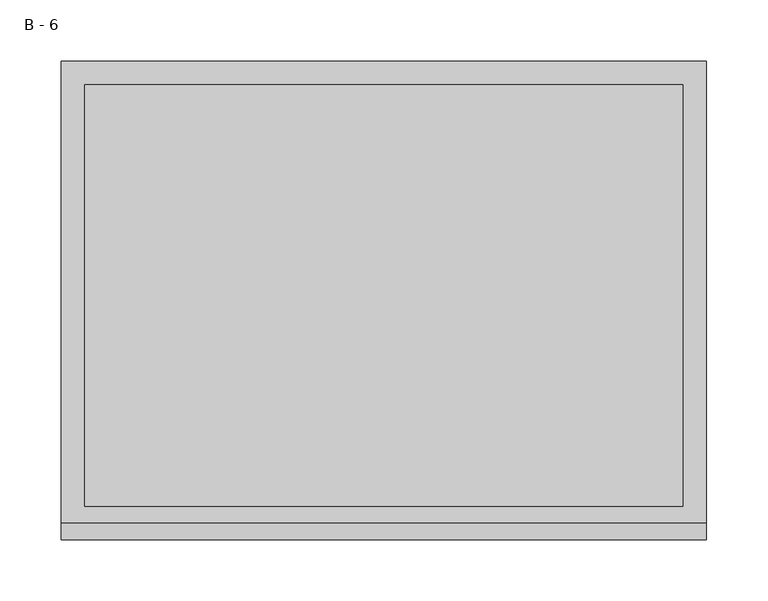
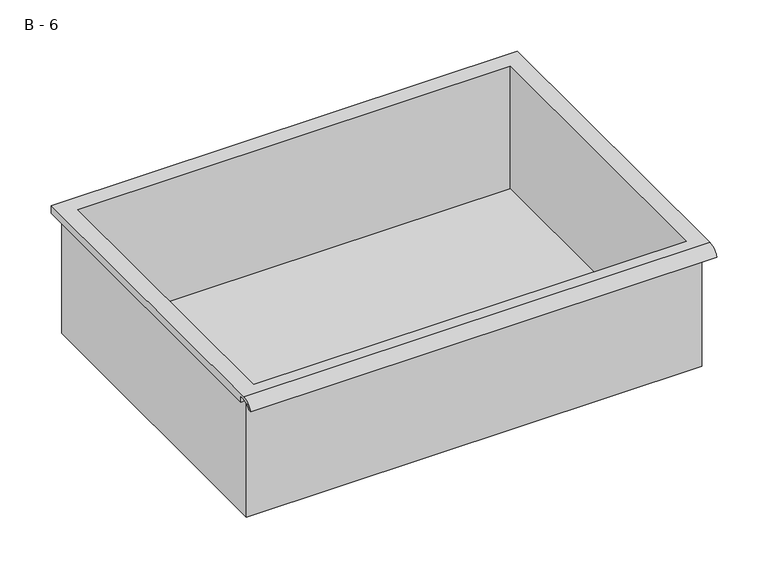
"""IFC4 building model written with IfcOpenShell, lengths in millimetres: furniture geometry, HermanMiller_CoStruc_CO207_Drawer : B - 6."""

from ifc_helpers import new_model, si_unit, frame, origin, place, context, project, spatial, polyline, circle_curve, source, transform, mapped, element, save
from ifc_brep_helpers import plane_surface, cylinder_surface, revolved_surface, advanced_brep


def b_6_69409394(model_context):
    return source(origin(), model_context, "Body", "AdvancedBrep", [
        advanced_brep(
        [(-257.1076517, -176.2125, 622.2111), (257.2423483, -176.2125, 622.2111), (257.2423483, -176.2125, 761.9111), (263.5923483, -176.2125, 761.9111), (263.5923483, -176.2125, 768.2182341), (-263.4576517, -176.2125, 768.2182341), (-263.4576517, -176.2125, 761.9111), (-257.1076517, -176.2125, 761.9111), (257.2423483, 185.7375, 622.2111), (-257.1076517, 185.7375, 622.2111), (-257.1076517, 185.7375, 761.9111), (257.2423483, 185.7375, 761.9111), (263.5923483, -181.6070544, 771.4361), (263.5923483, 195.2625, 771.4361), (-263.4576517, 195.2625, 771.4361), (-263.4576517, -181.6070544, 771.4361), (244.5423483, -168.275, 771.4361), (-244.4076517, -168.275, 771.4361), (-244.4076517, 176.2125, 771.4361), (244.5423483, 176.2125, 771.4361), (263.5923483, -195.2625, 761.9111), (263.5923483, -191.8280601, 761.9111), (263.5923483, -180.4714815, 768.2182341), (263.5923483, 195.2625, 761.9111), (-263.4576517, 195.2625, 761.9111), (-263.4576517, -180.4714815, 768.2182341), (-263.4576517, -191.8280601, 761.9111), (-263.4576517, -195.2625, 761.9111), (-244.4076517, -168.275, 625.2372719), (244.5423483, -168.275, 625.2372719), (244.5423483, 176.2125, 625.2372719), (-244.4076517, 176.2125, 625.2372719)],
        [
            (0, 1),
            (1, 2),
            (2, 3),
            (3, 4),
            (4, 5),
            (5, 6),
            (6, 7),
            (7, 0),
            (8, 9),
            (9, 10),
            (10, 11),
            (11, 8),
            (0, 9),
            (8, 1),
            (11, 2),
            (12, 13),
            (13, 14),
            (14, 15),
            (15, 12),
            (16, 17),
            (17, 18),
            (18, 19),
            (19, 16),
            (7, 10),
            (12, 20, circle_curve(frame((263.5923483, -181.6070544, 756.8850859), z_axis=(1.0, 0.0, 0.0), x_axis=(0.0, 1.0, 0.0)), 14.5510141)),
            (20, 21),
            (21, 22, circle_curve(frame((263.5923483, -181.6070544, 756.8850859), z_axis=(-1.0, 0.0, 0.0), x_axis=(0.0, 1.0, 0.0)), 11.3898979)),
            (22, 4),
            (3, 23),
            (23, 13),
            (14, 24),
            (24, 6),
            (5, 25),
            (25, 26, circle_curve(frame((-263.4576517, -181.6070544, 756.8850859), z_axis=(1.0, 0.0, 0.0), x_axis=(0.0, 1.0, 0.0)), 11.3898979)),
            (26, 27),
            (27, 15, circle_curve(frame((-263.4576517, -181.6070544, 756.8850859), z_axis=(-1.0, 0.0, 0.0), x_axis=(0.0, 1.0, 0.0)), 14.5510141)),
            (27, 20),
            (26, 21),
            (25, 22),
            (24, 23),
            (28, 29),
            (29, 30),
            (30, 31),
            (31, 28),
            (28, 17),
            (16, 29),
            (19, 30),
            (18, 31),
        ],
        [
            plane_surface(frame((257.2423483, -176.2125, 622.2111), z_axis=(0.0, -1.0, 0.0), x_axis=(1.0, 0.0, 0.0))),
            plane_surface(frame((257.2423483, 185.7375, 622.2111), z_axis=(0.0, 1.0, 0.0), x_axis=(-1.0, 0.0, 0.0))),
            plane_surface(frame((-257.1076517, -176.2125, 622.2111), z_axis=(0.0, 0.0, -1.0), x_axis=(0.0, 1.0, 0.0))),
            plane_surface(frame((257.2423483, -176.2125, 622.2111), z_axis=(1.0, 0.0, 0.0), x_axis=(0.0, 1.0, 0.0))),
            plane_surface(frame((257.2423483, -176.2125, 771.4361), z_axis=(0.0, 0.0, 1.0), x_axis=(0.0, 1.0, 0.0))),
            plane_surface(frame((-257.1076517, -176.2125, 771.4361), z_axis=(-1.0, 0.0, 0.0), x_axis=(0.0, 1.0, 0.0))),
            plane_surface(frame((263.5923483, 195.2625, 771.4361), z_axis=(1.0, 0.0, 0.0), x_axis=(0.0, -1.0, 0.0))),
            plane_surface(frame((-263.4576517, 195.2625, 771.4361), z_axis=(-1.0, 0.0, 0.0), x_axis=(0.0, 1.0, 0.0))),
            cylinder_surface(frame((-263.4576517, -181.6070544, 756.8850859), z_axis=(1.0, 0.0, 0.0), x_axis=(0.0, 1.0, 0.0)), 14.5510141),
            plane_surface(frame((263.5923483, -195.2625, 761.9111), z_axis=(0.0, -7.251821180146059e-12, -1.0), x_axis=(-1.0, 0.0, 0.0))),
            revolved_surface(polyline([(-263.4576517, -170.21715650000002, 756.8850859), (263.59234829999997, -170.21715650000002, 756.8850859)]), (-263.4576517, -181.6070544, 756.8850859), (-1.0, 0.0, 0.0)),
            plane_surface(frame((263.5923483, -180.4714815, 768.2182341), z_axis=(0.0, -1.7988537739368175e-11, -1.0), x_axis=(-1.0, 0.0, 0.0))),
            plane_surface(frame((263.5923483, -176.2125, 761.9111), z_axis=(0.0, 0.0, -1.0), x_axis=(-1.0, 0.0, 0.0))),
            plane_surface(frame((263.5923483, 195.2625, 761.9111), z_axis=(0.0, 1.0, 0.0), x_axis=(-1.0, 0.0, 0.0))),
            plane_surface(frame((244.5423483, -168.275, 625.2372719), z_axis=(0.0, 0.0, 1.0), x_axis=(-1.0, 0.0, 0.0))),
            plane_surface(frame((-244.4076517, -168.275, 771.4361), z_axis=(0.0, 1.0, 0.0), x_axis=(0.0, 0.0, -1.0))),
            plane_surface(frame((244.5423483, -168.275, 771.4361), z_axis=(-1.0, 0.0, 0.0), x_axis=(0.0, 0.0, -1.0))),
            plane_surface(frame((244.5423483, 176.2125, 771.4361), z_axis=(0.0, -1.0, 0.0), x_axis=(0.0, 0.0, -1.0))),
            plane_surface(frame((-244.4076517, 176.2125, 771.4361), z_axis=(1.0, 0.0, 0.0), x_axis=(0.0, 0.0, -1.0))),
        ],
        [
            (0, [[1, 2, 3, 4, 5, 6, 7, 8]]),
            (1, [[9, 10, 11, 12]]),
            (2, [[-1, 13, -9, 14]]),
            (3, [[-14, -12, 15, -2]]),
            (4, [[16, 17, 18, 19], [20, 21, 22, 23]]),
            (5, [[-13, -8, 24, -10]]),
            (6, [[-16, 25, 26, 27, 28, -4, 29, 30]]),
            (7, [[31, 32, -6, 33, 34, 35, 36, -18]]),
            (8, [[-25, -19, -36, 37]]),
            (9, [[-26, -37, -35, 38]]),
            (10, [[-27, -38, -34, 39]]),
            (11, [[-28, -39, -33, -5]]),
            (12, [[-29, -3, -15, -11, -24, -7, -32, 40]]),
            (13, [[-30, -40, -31, -17]]),
            (14, [[41, 42, 43, 44]]),
            (15, [[-41, 45, -20, 46]]),
            (16, [[-42, -46, -23, 47]]),
            (17, [[-43, -47, -22, 48]]),
            (18, [[-44, -48, -21, -45]]),
        ],
    ),
    ])


if __name__ == "__main__":
    model = new_model("IFC4")
    model_context = context("Model", 3, world=origin())
    ifc_project = project(units=[si_unit("LENGTHUNIT", "METRE", prefix="MILLI")], contexts=[model_context])
    site = spatial("IfcSite", under=ifc_project)
    building = spatial("IfcBuilding", under=site)
    placement = place(None, origin())
    b_6_shape = b_6_69409394(model_context)
    element("IfcFurniture", 1, ObjectType="HermanMiller_CoStruc_CO207_Drawer : B - 6", at=placement, inside=building, context=model_context, shape_type="MappedRepresentation", body=[
        mapped(b_6_shape, transform((0.0, 0.0, 0.0), x_axis=(1.0, 0.0, 0.0), y_axis=(0.0, 1.0, 0.0), z_axis=(0.0, 0.0, 1.0))),
    ])
    save(model, "model.ifc")
